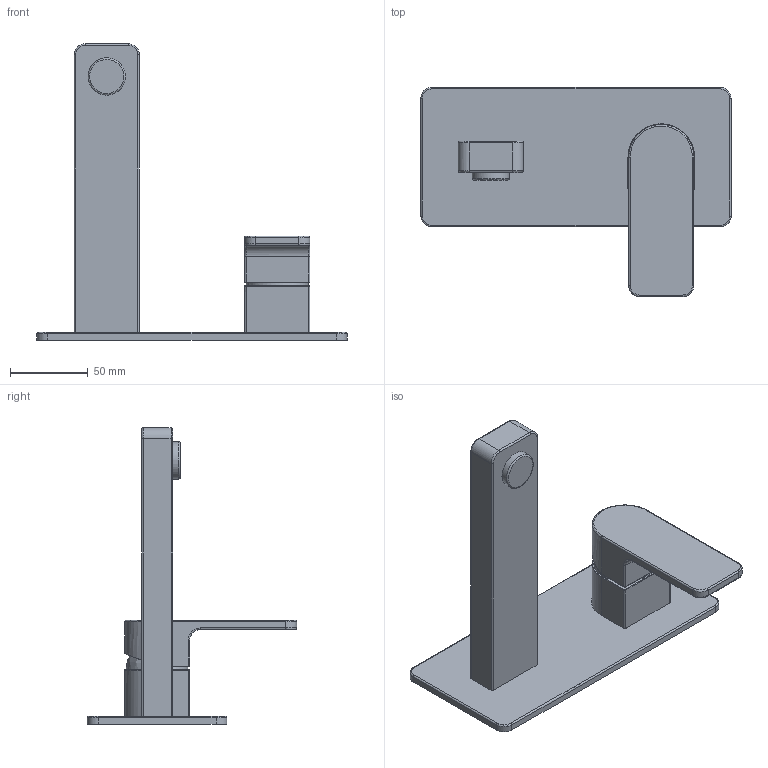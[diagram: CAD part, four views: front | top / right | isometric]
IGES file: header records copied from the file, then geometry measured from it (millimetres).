
Global section: file name: 7499b88b-3b7e-4f15-aed2-8d07e4c622a0; native system: unknown; preprocessor: unknown; author: unknown; organization: unknown; date: 20191128.080625; units: millimetre
Bounding box: 200 x 135 x 191 mm (x, y, z)
Volume: 310601 mm3; surface area: 88779.9 mm2
Topology: 6 solids, 6 shells, 106 faces, 239 edges, 145 vertices
Faces by surface type: bspline 106
